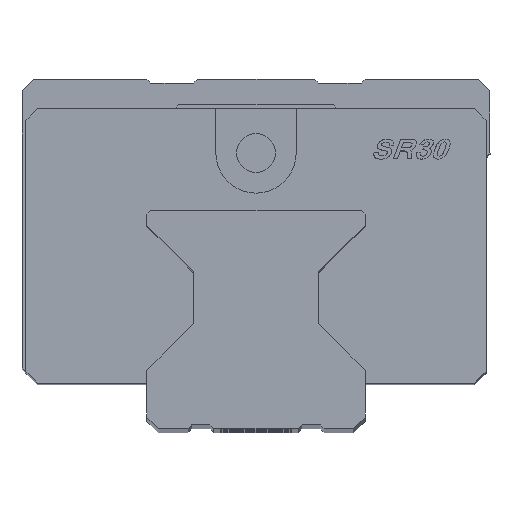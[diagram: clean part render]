
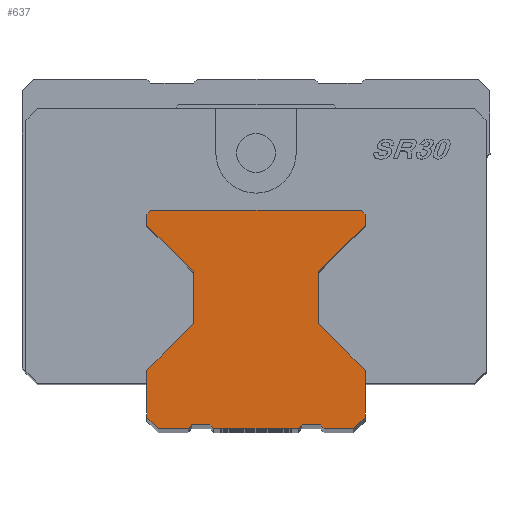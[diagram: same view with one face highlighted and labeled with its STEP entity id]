
A CAD part, top view. The second image highlights one B-rep face of the part: STEP entity #637.
In plain terms, the highlighted planar face has unit normal (0, 0, 1).
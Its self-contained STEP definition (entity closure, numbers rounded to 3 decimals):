
#412=FACE_OUTER_BOUND('',#1274,.T.);
#637=ADVANCED_FACE('',(#412),#770,.T.);
#770=PLANE('',#4936);
#1274=EDGE_LOOP('',(#2772,#2773,#2774,#2775,#2776,#2777,#2778,#2779,#2780,
#2781,#2782,#2783,#2784,#2785,#2786,#2787,#2788,#2789,#2790,#2791,#2792,
#2793,#2794,#2795));
#2772=ORIENTED_EDGE('',*,*,#3894,.T.);
#2773=ORIENTED_EDGE('',*,*,#3892,.T.);
#2774=ORIENTED_EDGE('',*,*,#3890,.T.);
#2775=ORIENTED_EDGE('',*,*,#3888,.T.);
#2776=ORIENTED_EDGE('',*,*,#3886,.T.);
#2777=ORIENTED_EDGE('',*,*,#3884,.T.);
#2778=ORIENTED_EDGE('',*,*,#3882,.T.);
#2779=ORIENTED_EDGE('',*,*,#3880,.T.);
#2780=ORIENTED_EDGE('',*,*,#3878,.T.);
#2781=ORIENTED_EDGE('',*,*,#3869,.T.);
#2782=ORIENTED_EDGE('',*,*,#3867,.T.);
#2783=ORIENTED_EDGE('',*,*,#3865,.T.);
#2784=ORIENTED_EDGE('',*,*,#3863,.T.);
#2785=ORIENTED_EDGE('',*,*,#3861,.T.);
#2786=ORIENTED_EDGE('',*,*,#3859,.T.);
#2787=ORIENTED_EDGE('',*,*,#3857,.T.);
#2788=ORIENTED_EDGE('',*,*,#3855,.T.);
#2789=ORIENTED_EDGE('',*,*,#3853,.T.);
#2790=ORIENTED_EDGE('',*,*,#3851,.T.);
#2791=ORIENTED_EDGE('',*,*,#3849,.T.);
#2792=ORIENTED_EDGE('',*,*,#3847,.T.);
#2793=ORIENTED_EDGE('',*,*,#3838,.T.);
#2794=ORIENTED_EDGE('',*,*,#3836,.T.);
#2795=ORIENTED_EDGE('',*,*,#3834,.T.);
#3230=VERTEX_POINT('',#8160);
#3231=VERTEX_POINT('',#8162);
#3232=VERTEX_POINT('',#8166);
#3233=VERTEX_POINT('',#8170);
#3241=VERTEX_POINT('',#8188);
#3242=VERTEX_POINT('',#8192);
#3243=VERTEX_POINT('',#8196);
#3244=VERTEX_POINT('',#8200);
#3245=VERTEX_POINT('',#8204);
#3246=VERTEX_POINT('',#8208);
#3247=VERTEX_POINT('',#8212);
#3248=VERTEX_POINT('',#8216);
#3249=VERTEX_POINT('',#8220);
#3250=VERTEX_POINT('',#8224);
#3251=VERTEX_POINT('',#8228);
#3252=VERTEX_POINT('',#8232);
#3260=VERTEX_POINT('',#8250);
#3261=VERTEX_POINT('',#8254);
#3262=VERTEX_POINT('',#8258);
#3263=VERTEX_POINT('',#8262);
#3264=VERTEX_POINT('',#8266);
#3265=VERTEX_POINT('',#8270);
#3266=VERTEX_POINT('',#8274);
#3267=VERTEX_POINT('',#8278);
#3834=EDGE_CURVE('',#3231,#3230,#4229,.T.);
#3836=EDGE_CURVE('',#3232,#3231,#4231,.T.);
#3838=EDGE_CURVE('',#3233,#3232,#4233,.T.);
#3847=EDGE_CURVE('',#3241,#3233,#4235,.T.);
#3849=EDGE_CURVE('',#3242,#3241,#4237,.T.);
#3851=EDGE_CURVE('',#3243,#3242,#4239,.T.);
#3853=EDGE_CURVE('',#3244,#3243,#4241,.T.);
#3855=EDGE_CURVE('',#3245,#3244,#4243,.T.);
#3857=EDGE_CURVE('',#3246,#3245,#4245,.T.);
#3859=EDGE_CURVE('',#3247,#3246,#4247,.T.);
#3861=EDGE_CURVE('',#3248,#3247,#4249,.T.);
#3863=EDGE_CURVE('',#3249,#3248,#4251,.T.);
#3865=EDGE_CURVE('',#3250,#3249,#4253,.T.);
#3867=EDGE_CURVE('',#3251,#3250,#4255,.T.);
#3869=EDGE_CURVE('',#3252,#3251,#4257,.T.);
#3878=EDGE_CURVE('',#3260,#3252,#4259,.T.);
#3880=EDGE_CURVE('',#3261,#3260,#4261,.T.);
#3882=EDGE_CURVE('',#3262,#3261,#4263,.T.);
#3884=EDGE_CURVE('',#3263,#3262,#4265,.T.);
#3886=EDGE_CURVE('',#3264,#3263,#4267,.T.);
#3888=EDGE_CURVE('',#3265,#3264,#4269,.T.);
#3890=EDGE_CURVE('',#3266,#3265,#4271,.T.);
#3892=EDGE_CURVE('',#3267,#3266,#4273,.T.);
#3894=EDGE_CURVE('',#3230,#3267,#4275,.T.);
#4229=LINE('',#8161,#4685);
#4231=LINE('',#8165,#4687);
#4233=LINE('',#8169,#4689);
#4235=LINE('',#8187,#4691);
#4237=LINE('',#8191,#4693);
#4239=LINE('',#8195,#4695);
#4241=LINE('',#8199,#4697);
#4243=LINE('',#8203,#4699);
#4245=LINE('',#8207,#4701);
#4247=LINE('',#8211,#4703);
#4249=LINE('',#8215,#4705);
#4251=LINE('',#8219,#4707);
#4253=LINE('',#8223,#4709);
#4255=LINE('',#8227,#4711);
#4257=LINE('',#8231,#4713);
#4259=LINE('',#8249,#4715);
#4261=LINE('',#8253,#4717);
#4263=LINE('',#8257,#4719);
#4265=LINE('',#8261,#4721);
#4267=LINE('',#8265,#4723);
#4269=LINE('',#8269,#4725);
#4271=LINE('',#8273,#4727);
#4273=LINE('',#8277,#4729);
#4275=LINE('',#8281,#4731);
#4685=VECTOR('',#5713,1.);
#4687=VECTOR('',#5717,1.);
#4689=VECTOR('',#5721,1.);
#4691=VECTOR('',#5739,1.);
#4693=VECTOR('',#5743,1.);
#4695=VECTOR('',#5747,1.);
#4697=VECTOR('',#5751,1.);
#4699=VECTOR('',#5755,1.);
#4701=VECTOR('',#5759,1.);
#4703=VECTOR('',#5763,1.);
#4705=VECTOR('',#5767,1.);
#4707=VECTOR('',#5771,1.);
#4709=VECTOR('',#5775,1.);
#4711=VECTOR('',#5779,1.);
#4713=VECTOR('',#5783,1.);
#4715=VECTOR('',#5801,1.);
#4717=VECTOR('',#5805,1.);
#4719=VECTOR('',#5809,1.);
#4721=VECTOR('',#5813,1.);
#4723=VECTOR('',#5817,1.);
#4725=VECTOR('',#5821,1.);
#4727=VECTOR('',#5825,1.);
#4729=VECTOR('',#5829,1.);
#4731=VECTOR('',#5833,1.);
#4936=AXIS2_PLACEMENT_3D('',#8283,#5836,#5837);
#5713=DIRECTION('',(0.,-1.,0.));
#5717=DIRECTION('',(-0.707,-0.707,0.));
#5721=DIRECTION('',(-1.,0.,0.));
#5739=DIRECTION('',(-0.707,0.707,0.));
#5743=DIRECTION('',(0.,1.,0.));
#5747=DIRECTION('',(0.707,0.707,0.));
#5751=DIRECTION('',(0.,1.,0.));
#5755=DIRECTION('',(-0.707,0.707,0.));
#5759=DIRECTION('',(0.,1.,0.));
#5763=DIRECTION('',(0.707,0.707,0.));
#5767=DIRECTION('',(1.,0.,0.));
#5771=DIRECTION('',(0.707,-0.707,0.));
#5775=DIRECTION('',(1.,0.,0.));
#5779=DIRECTION('',(0.707,0.707,0.));
#5783=DIRECTION('',(1.,0.,0.));
#5801=DIRECTION('',(0.707,-0.707,0.));
#5805=DIRECTION('',(1.,0.,0.));
#5809=DIRECTION('',(0.707,0.707,0.));
#5813=DIRECTION('',(1.,0.,0.));
#5817=DIRECTION('',(0.707,-0.707,0.));
#5821=DIRECTION('',(0.,-1.,0.));
#5825=DIRECTION('',(-0.707,-0.707,0.));
#5829=DIRECTION('',(0.,-1.,0.));
#5833=DIRECTION('',(0.707,-0.707,0.));
#5836=DIRECTION('',(0.,0.,1.));
#5837=DIRECTION('',(1.,0.,0.));
#8160=CARTESIAN_POINT('',(-14.,26.1,150.));
#8161=CARTESIAN_POINT('',(-14.,27.5,150.));
#8162=CARTESIAN_POINT('',(-14.,27.5,150.));
#8165=CARTESIAN_POINT('',(-13.5,28.,150.));
#8166=CARTESIAN_POINT('',(-13.5,28.,150.));
#8169=CARTESIAN_POINT('',(13.5,28.,150.));
#8170=CARTESIAN_POINT('',(13.5,28.,150.));
#8187=CARTESIAN_POINT('',(14.,27.5,150.));
#8188=CARTESIAN_POINT('',(14.,27.5,150.));
#8191=CARTESIAN_POINT('',(14.,26.1,150.));
#8192=CARTESIAN_POINT('',(14.,26.1,150.));
#8195=CARTESIAN_POINT('',(8.,20.1,150.));
#8196=CARTESIAN_POINT('',(8.,20.1,150.));
#8199=CARTESIAN_POINT('',(8.,13.5,150.));
#8200=CARTESIAN_POINT('',(8.,13.5,150.));
#8203=CARTESIAN_POINT('',(14.,7.5,150.));
#8204=CARTESIAN_POINT('',(14.,7.5,150.));
#8207=CARTESIAN_POINT('',(14.,1.5,150.));
#8208=CARTESIAN_POINT('',(14.,1.5,150.));
#8211=CARTESIAN_POINT('',(12.5,0.,150.));
#8212=CARTESIAN_POINT('',(12.5,0.,150.));
#8215=CARTESIAN_POINT('',(8.75,0.,150.));
#8216=CARTESIAN_POINT('',(8.75,0.,150.));
#8219=CARTESIAN_POINT('',(8.25,0.5,150.));
#8220=CARTESIAN_POINT('',(8.25,0.5,150.));
#8223=CARTESIAN_POINT('',(5.9,0.5,150.));
#8224=CARTESIAN_POINT('',(5.9,0.5,150.));
#8227=CARTESIAN_POINT('',(5.4,0.,150.));
#8228=CARTESIAN_POINT('',(5.4,0.,150.));
#8231=CARTESIAN_POINT('',(-5.4,0.,150.));
#8232=CARTESIAN_POINT('',(-5.4,0.,150.));
#8249=CARTESIAN_POINT('',(-5.9,0.5,150.));
#8250=CARTESIAN_POINT('',(-5.9,0.5,150.));
#8253=CARTESIAN_POINT('',(-8.25,0.5,150.));
#8254=CARTESIAN_POINT('',(-8.25,0.5,150.));
#8257=CARTESIAN_POINT('',(-8.75,0.,150.));
#8258=CARTESIAN_POINT('',(-8.75,0.,150.));
#8261=CARTESIAN_POINT('',(-12.5,0.,150.));
#8262=CARTESIAN_POINT('',(-12.5,0.,150.));
#8265=CARTESIAN_POINT('',(-14.,1.5,150.));
#8266=CARTESIAN_POINT('',(-14.,1.5,150.));
#8269=CARTESIAN_POINT('',(-14.,7.5,150.));
#8270=CARTESIAN_POINT('',(-14.,7.5,150.));
#8273=CARTESIAN_POINT('',(-8.,13.5,150.));
#8274=CARTESIAN_POINT('',(-8.,13.5,150.));
#8277=CARTESIAN_POINT('',(-8.,20.1,150.));
#8278=CARTESIAN_POINT('',(-8.,20.1,150.));
#8281=CARTESIAN_POINT('',(-14.,26.1,150.));
#8283=CARTESIAN_POINT('',(-15.4,-1.4,150.));
